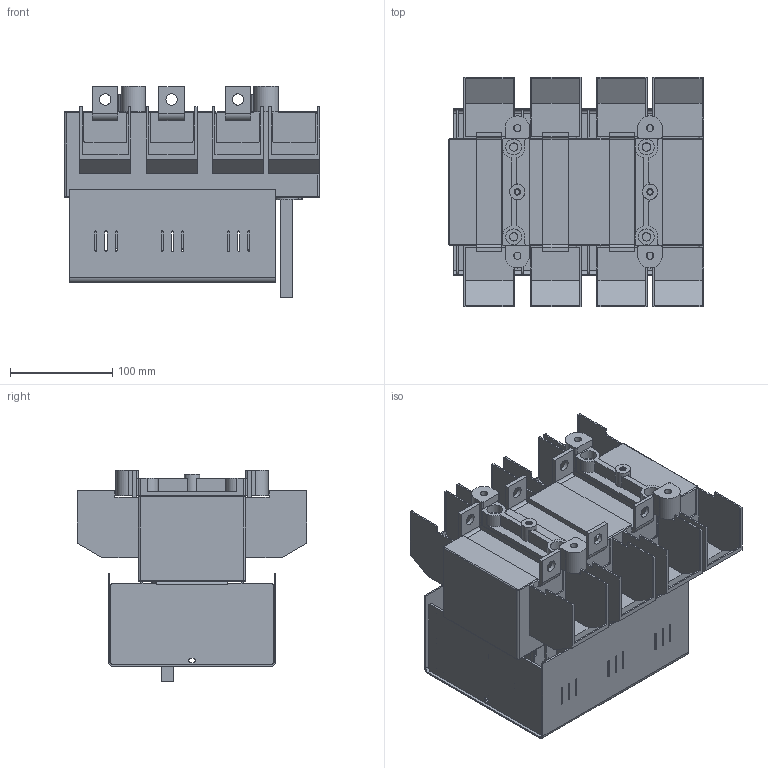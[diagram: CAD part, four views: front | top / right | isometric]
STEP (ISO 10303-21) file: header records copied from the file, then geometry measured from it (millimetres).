
FILE_DESCRIPTION(/* description */ (''),/* implementation_level */ '2;1');
FILE_NAME(/* name */ 'RAB 1 P3 C z oslona zaciskow.stp',/* time_stamp */ '2021-08-19T13:05:05+02:00',/* author */ (''),/* organization */ (''),/* preprocessor_version */ 'ST-DEVELOPER v18.1',/* originating_system */ 'SIEMENS PLM Software NX 1965',/* authorisation */ '');
FILE_SCHEMA (('AUTOMOTIVE_DESIGN { 1 0 10303 214 3 1 1 1 }'));
Length unit declared in the file: millimetre
Products named in the file (1): RAB 1 P3 C z oslona zaciskow_stp
Bounding box: 250 x 225 x 207.3 mm (x, y, z)
Volume: 2597958.1 mm3; surface area: 597773.4 mm2
Topology: 1 solids, 1 shells, 1216 faces, 3394 edges, 2218 vertices
Faces by surface type: plane 850, cylinder 358, torus 5, bspline 3
Full cylindrical faces by diameter (mm): 4.8 x2, 6.2 x2, 7 x4, 8.2 x4, 11 x6, 14 x4, 15 x2, 15.5 x4
Entity records: 38963 total; most frequent: CARTESIAN_POINT 6880, ORIENTED_EDGE 6724, DIRECTION 6550, EDGE_CURVE 3362, LINE 2590, VECTOR 2590, VERTEX_POINT 2214, AXIS2_PLACEMENT_3D 1980
